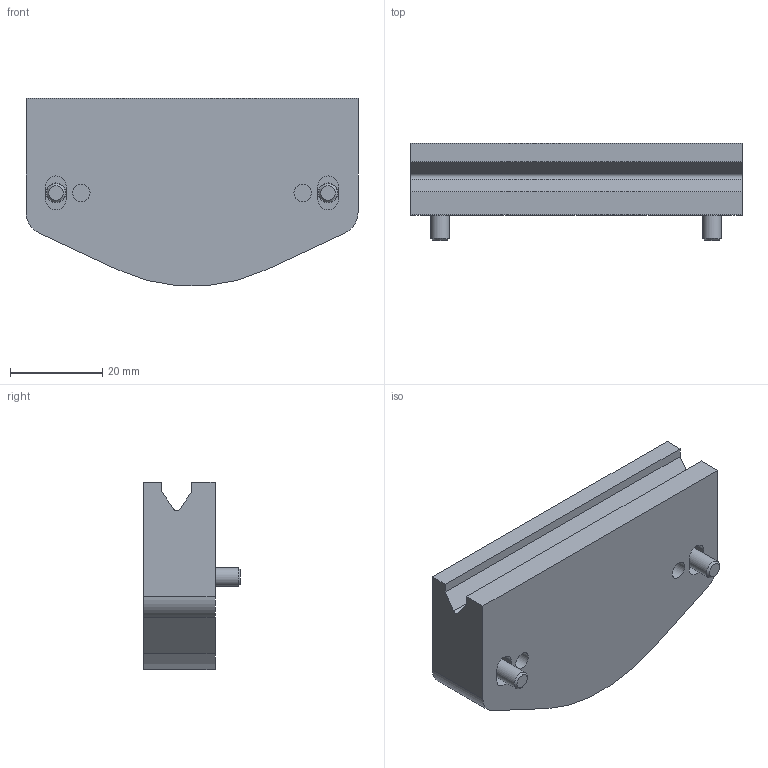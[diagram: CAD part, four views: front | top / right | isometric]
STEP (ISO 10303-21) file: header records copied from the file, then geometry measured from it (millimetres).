
FILE_DESCRIPTION( ( 'STEP AP203' ), '1' );
FILE_NAME( 'p:/temp/worker_112/temp/exporttempdir_180_328_Ujd64/format_1/CW360-B.stp', '2021-09-29T07:51:56', ( 'License CC BY-ND 4.0' ), ( 'CADENAS' ), ' ', 'PARTsolutions', ' ' );
FILE_SCHEMA( ( 'CONFIG_CONTROL_DESIGN' ) );
Length unit declared in the file: millimetre
Products named in the file (1): _CW360-B
Bounding box: 72 x 21 x 40.61 mm (x, y, z)
Volume: 36659.2 mm3; surface area: 10303.7 mm2
Topology: 1 solids, 1 shells, 82 faces, 200 edges, 132 vertices
Faces by surface type: plane 56, cylinder 20, cone 4, sphere 2
Full cylindrical faces by diameter (mm): 3.8 x2, 4 x2, 4.3 x2, 8 x2
Entity records: 2358 total; most frequent: DIRECTION 416, CARTESIAN_POINT 393, ORIENTED_EDGE 364, EDGE_CURVE 182, AXIS2_PLACEMENT_3D 151, VERTEX_POINT 128, LINE 114, VECTOR 114
